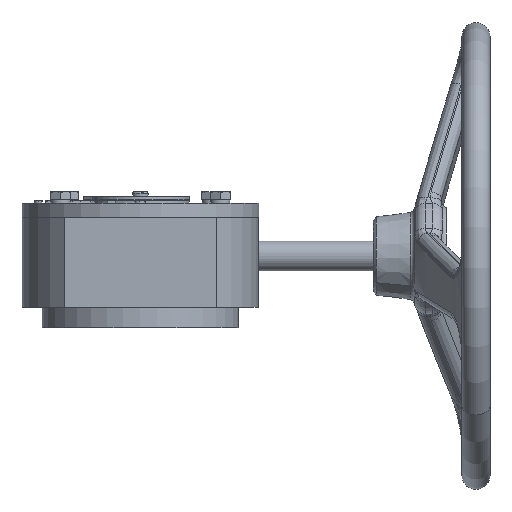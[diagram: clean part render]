
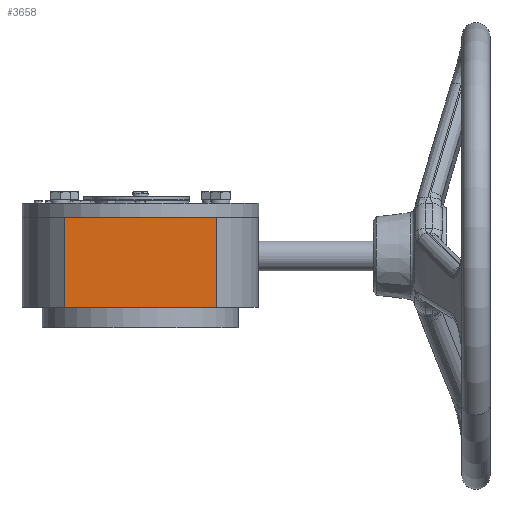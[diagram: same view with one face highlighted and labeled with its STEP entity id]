
A CAD part, front view. The second image highlights one B-rep face of the part: STEP entity #3658.
In plain terms, the highlighted planar face has unit normal (0, -1, 0).
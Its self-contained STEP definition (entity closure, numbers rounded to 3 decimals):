
#140 = PLANE('',#141);
#141 = AXIS2_PLACEMENT_3D('',#142,#143,#144);
#142 = CARTESIAN_POINT('',(-47.069,-55.806,15.285));
#143 = DIRECTION('',(0.,0.,1.));
#144 = DIRECTION('',(1.,0.,-0.));
#2637 = PLANE('',#2638);
#2638 = AXIS2_PLACEMENT_3D('',#2639,#2640,#2641);
#2639 = CARTESIAN_POINT('',(-47.069,-55.806,13.));
#2640 = DIRECTION('',(0.,0.,1.));
#2641 = DIRECTION('',(1.,0.,-0.));
#2663 = PLANE('',#2664);
#2664 = AXIS2_PLACEMENT_3D('',#2665,#2666,#2667);
#2665 = CARTESIAN_POINT('',(-49.,-58.958,15.285));
#2666 = DIRECTION('',(1.,0.,0.));
#2667 = DIRECTION('',(0.,1.,0.));
#3072 = VERTEX_POINT('',#3073);
#3073 = CARTESIAN_POINT('',(-45.139,-58.958,13.));
#3089 = PLANE('',#3090);
#3090 = AXIS2_PLACEMENT_3D('',#3091,#3092,#3093);
#3091 = CARTESIAN_POINT('',(-45.139,-58.958,15.285));
#3092 = DIRECTION('',(-1.,0.,0.));
#3093 = DIRECTION('',(0.,-1.,0.));
#3101 = EDGE_CURVE('',#3102,#3072,#3104,.T.);
#3102 = VERTEX_POINT('',#3103);
#3103 = CARTESIAN_POINT('',(-49.,-58.958,13.));
#3104 = SURFACE_CURVE('',#3105,(#3109,#3116),.PCURVE_S1.);
#3105 = LINE('',#3106,#3107);
#3106 = CARTESIAN_POINT('',(-49.,-58.958,13.));
#3107 = VECTOR('',#3108,1.);
#3108 = DIRECTION('',(1.,0.,0.));
#3109 = PCURVE('',#2637,#3110);
#3110 = DEFINITIONAL_REPRESENTATION('',(#3111),#3115);
#3111 = LINE('',#3112,#3113);
#3112 = CARTESIAN_POINT('',(-1.931,-3.152));
#3113 = VECTOR('',#3114,1.);
#3114 = DIRECTION('',(1.,0.));
#3115 = ( GEOMETRIC_REPRESENTATION_CONTEXT(2) 
PARAMETRIC_REPRESENTATION_CONTEXT() REPRESENTATION_CONTEXT('2D SPACE',''
  ) );
#3116 = PCURVE('',#3117,#3122);
#3117 = PLANE('',#3118);
#3118 = AXIS2_PLACEMENT_3D('',#3119,#3120,#3121);
#3119 = CARTESIAN_POINT('',(-49.,-58.958,15.285));
#3120 = DIRECTION('',(0.,1.,0.));
#3121 = DIRECTION('',(-1.,0.,0.));
#3122 = DEFINITIONAL_REPRESENTATION('',(#3123),#3127);
#3123 = LINE('',#3124,#3125);
#3124 = CARTESIAN_POINT('',(-0.,-2.285));
#3125 = VECTOR('',#3126,1.);
#3126 = DIRECTION('',(-1.,0.));
#3127 = ( GEOMETRIC_REPRESENTATION_CONTEXT(2) 
PARAMETRIC_REPRESENTATION_CONTEXT() REPRESENTATION_CONTEXT('2D SPACE',''
  ) );
#3313 = VERTEX_POINT('',#3314);
#3314 = CARTESIAN_POINT('',(-45.139,-58.958,15.285));
#3335 = EDGE_CURVE('',#3313,#3072,#3336,.T.);
#3336 = SURFACE_CURVE('',#3337,(#3341,#3348),.PCURVE_S1.);
#3337 = LINE('',#3338,#3339);
#3338 = CARTESIAN_POINT('',(-45.139,-58.958,15.285));
#3339 = VECTOR('',#3340,1.);
#3340 = DIRECTION('',(0.,0.,-1.));
#3341 = PCURVE('',#3089,#3342);
#3342 = DEFINITIONAL_REPRESENTATION('',(#3343),#3347);
#3343 = LINE('',#3344,#3345);
#3344 = CARTESIAN_POINT('',(0.,0.));
#3345 = VECTOR('',#3346,1.);
#3346 = DIRECTION('',(-0.,-1.));
#3347 = ( GEOMETRIC_REPRESENTATION_CONTEXT(2) 
PARAMETRIC_REPRESENTATION_CONTEXT() REPRESENTATION_CONTEXT('2D SPACE',''
  ) );
#3348 = PCURVE('',#3117,#3349);
#3349 = DEFINITIONAL_REPRESENTATION('',(#3350),#3354);
#3350 = LINE('',#3351,#3352);
#3351 = CARTESIAN_POINT('',(-3.861,0.));
#3352 = VECTOR('',#3353,1.);
#3353 = DIRECTION('',(-0.,-1.));
#3354 = ( GEOMETRIC_REPRESENTATION_CONTEXT(2) 
PARAMETRIC_REPRESENTATION_CONTEXT() REPRESENTATION_CONTEXT('2D SPACE',''
  ) );
#3614 = EDGE_CURVE('',#3615,#3102,#3617,.T.);
#3615 = VERTEX_POINT('',#3616);
#3616 = CARTESIAN_POINT('',(-49.,-58.958,15.285));
#3617 = SURFACE_CURVE('',#3618,(#3622,#3629),.PCURVE_S1.);
#3618 = LINE('',#3619,#3620);
#3619 = CARTESIAN_POINT('',(-49.,-58.958,15.285));
#3620 = VECTOR('',#3621,1.);
#3621 = DIRECTION('',(0.,0.,-1.));
#3622 = PCURVE('',#2663,#3623);
#3623 = DEFINITIONAL_REPRESENTATION('',(#3624),#3628);
#3624 = LINE('',#3625,#3626);
#3625 = CARTESIAN_POINT('',(0.,0.));
#3626 = VECTOR('',#3627,1.);
#3627 = DIRECTION('',(0.,-1.));
#3628 = ( GEOMETRIC_REPRESENTATION_CONTEXT(2) 
PARAMETRIC_REPRESENTATION_CONTEXT() REPRESENTATION_CONTEXT('2D SPACE',''
  ) );
#3629 = PCURVE('',#3117,#3630);
#3630 = DEFINITIONAL_REPRESENTATION('',(#3631),#3635);
#3631 = LINE('',#3632,#3633);
#3632 = CARTESIAN_POINT('',(0.,0.));
#3633 = VECTOR('',#3634,1.);
#3634 = DIRECTION('',(-0.,-1.));
#3635 = ( GEOMETRIC_REPRESENTATION_CONTEXT(2) 
PARAMETRIC_REPRESENTATION_CONTEXT() REPRESENTATION_CONTEXT('2D SPACE',''
  ) );
#3658 = ADVANCED_FACE('',(#3659),#3117,.F.);
#3659 = FACE_BOUND('',#3660,.T.);
#3660 = EDGE_LOOP('',(#3661,#3662,#3663,#3684));
#3661 = ORIENTED_EDGE('',*,*,#3101,.T.);
#3662 = ORIENTED_EDGE('',*,*,#3335,.F.);
#3663 = ORIENTED_EDGE('',*,*,#3664,.F.);
#3664 = EDGE_CURVE('',#3615,#3313,#3665,.T.);
#3665 = SURFACE_CURVE('',#3666,(#3670,#3677),.PCURVE_S1.);
#3666 = LINE('',#3667,#3668);
#3667 = CARTESIAN_POINT('',(-49.,-58.958,15.285));
#3668 = VECTOR('',#3669,1.);
#3669 = DIRECTION('',(1.,0.,0.));
#3670 = PCURVE('',#3117,#3671);
#3671 = DEFINITIONAL_REPRESENTATION('',(#3672),#3676);
#3672 = LINE('',#3673,#3674);
#3673 = CARTESIAN_POINT('',(0.,0.));
#3674 = VECTOR('',#3675,1.);
#3675 = DIRECTION('',(-1.,0.));
#3676 = ( GEOMETRIC_REPRESENTATION_CONTEXT(2) 
PARAMETRIC_REPRESENTATION_CONTEXT() REPRESENTATION_CONTEXT('2D SPACE',''
  ) );
#3677 = PCURVE('',#140,#3678);
#3678 = DEFINITIONAL_REPRESENTATION('',(#3679),#3683);
#3679 = LINE('',#3680,#3681);
#3680 = CARTESIAN_POINT('',(-1.931,-3.152));
#3681 = VECTOR('',#3682,1.);
#3682 = DIRECTION('',(1.,0.));
#3683 = ( GEOMETRIC_REPRESENTATION_CONTEXT(2) 
PARAMETRIC_REPRESENTATION_CONTEXT() REPRESENTATION_CONTEXT('2D SPACE',''
  ) );
#3684 = ORIENTED_EDGE('',*,*,#3614,.T.);
